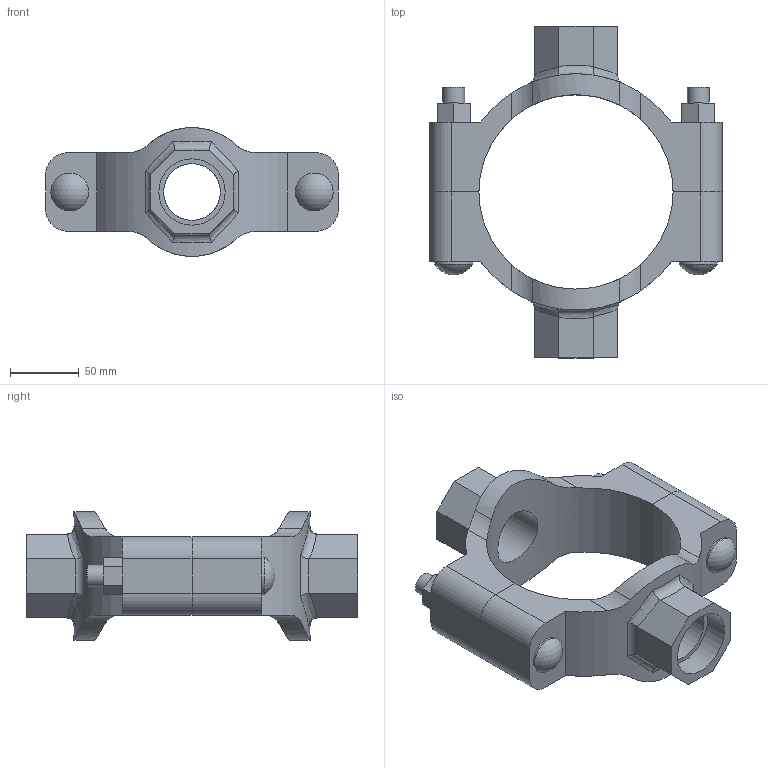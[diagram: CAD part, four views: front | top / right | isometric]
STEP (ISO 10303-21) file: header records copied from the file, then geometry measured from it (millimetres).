
FILE_DESCRIPTION(/* description */ ('VIC MECH-T BRANCH OUTLET CROSS STYLE 920N (THD)','CAx-IF Rec.Pracs.---Representation and Presentation of Product Manufacturing Information (PMI)---4.0---2014-10-13'),/* implementation_level */ '2;1');
FILE_NAME(/* name */ 'C:\Users\Vjadhav\AppData\Roaming\Autodesk\ApplicationPlugins\Back Up\Victaulic_IPS_Mechanical-Cross Outlet_Style 920N (FPT)\Victaulic_IPS_Mechanical-Cross Outlet_05.0x01.5x01.5 (125x40x40).stp',/* time_stamp */ '2020-08-06T18:58:58+05:00',/* author */ ('Vjadhav'),/* organization */ ('Victaulic'),/* preprocessor_version */ 'ST-DEVELOPER v17.2',/* originating_system */ 'Autodesk Inventor 2019',/* authorisation */ '');
FILE_SCHEMA (('AP242_MANAGED_MODEL_BASED_3D_ENGINEERING_MIM_LF { 1 0 10303 442 1 1 4 }'));
Length unit declared in the file: inch
Products named in the file (3): 920NT-05.0x01.5x01.5; 920T-05.0x01.5; 920T-05.0x01.5_1
Assembly tree (2 placements, depth 2):
  920NT-05.0x01.5x01.5
    920T-05.0x01.5
    920T-05.0x01.5_1
Bounding box: 212.85 x 241.3 x 93.71 mm (x, y, z)
Volume: 834797.9 mm3; surface area: 153144.7 mm2
Topology: 2 solids, 2 shells, 128 faces, 338 edges, 228 vertices
Faces by surface type: plane 68, cylinder 46, bspline 8, torus 4, sphere 2
Full cylindrical faces by diameter (mm): 15.875 x4, 27.496 x2, 41.275 x2, 48.26 x2
Entity records: 4928 total; most frequent: CARTESIAN_POINT 1523, ORIENTED_EDGE 676, DIRECTION 628, EDGE_CURVE 338, VERTEX_POINT 228, AXIS2_PLACEMENT_3D 223, LINE 182, VECTOR 182
